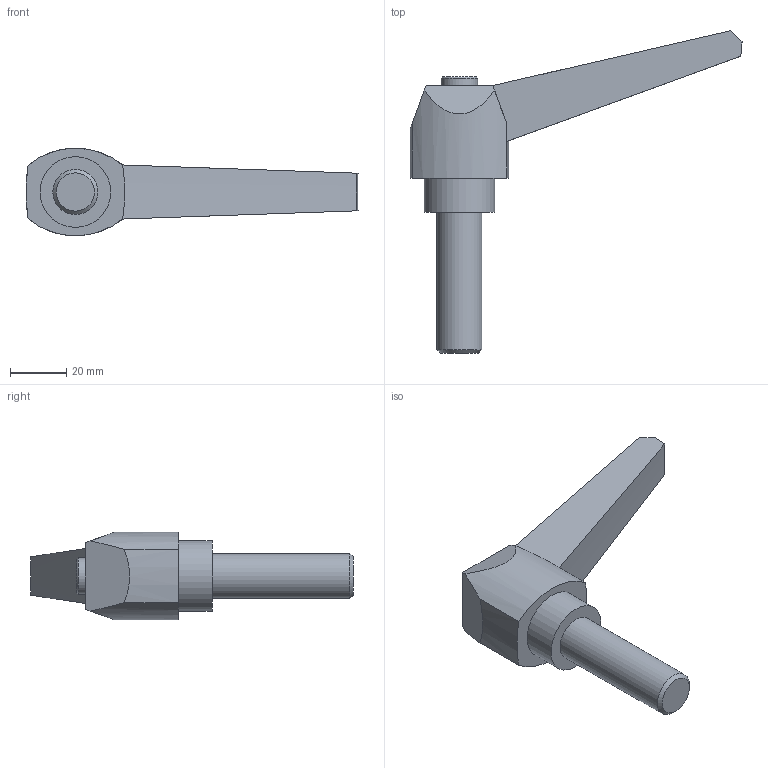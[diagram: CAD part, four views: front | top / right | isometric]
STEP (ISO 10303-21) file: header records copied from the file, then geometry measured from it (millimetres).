
FILE_DESCRIPTION( ( 'STEP AP203' ), '1' );
FILE_NAME( 'C:/Temp/Ganter_Step_05_03_2020/data/2_1/gn_500/gn_500_ms/Adjustable hand lever GN 500-100-M16-50-SW.stp', '2020-03-05T11:26:40', ( 'License CC BY-ND 4.0' ), ( 'CADENAS' ), ' ', 'PARTsolutions', ' ' );
FILE_SCHEMA( ( 'CONFIG_CONTROL_DESIGN' ) );
Length unit declared in the file: millimetre
Products named in the file (1): _Adjustable hand lever GN 500-100-M16-50-SW
Bounding box: 117.62 x 114.28 x 31 mm (x, y, z)
Volume: 66429.5 mm3; surface area: 13862.8 mm2
Topology: 1 solids, 1 shells, 24 faces, 56 edges, 37 vertices
Faces by surface type: plane 11, cylinder 7, cone 6
Full cylindrical faces by diameter (mm): 13 x1, 16 x1, 25 x1
Entity records: 709 total; most frequent: CARTESIAN_POINT 124, DIRECTION 118, ORIENTED_EDGE 100, EDGE_CURVE 50, AXIS2_PLACEMENT_3D 47, VERTEX_POINT 36, EDGE_LOOP 32, FACE_OUTER_BOUND 27
